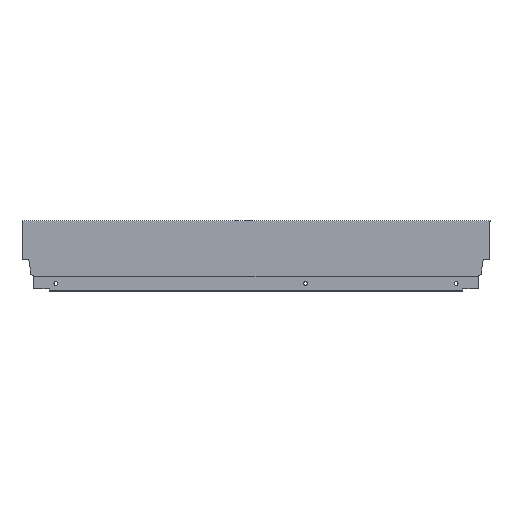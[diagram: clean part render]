
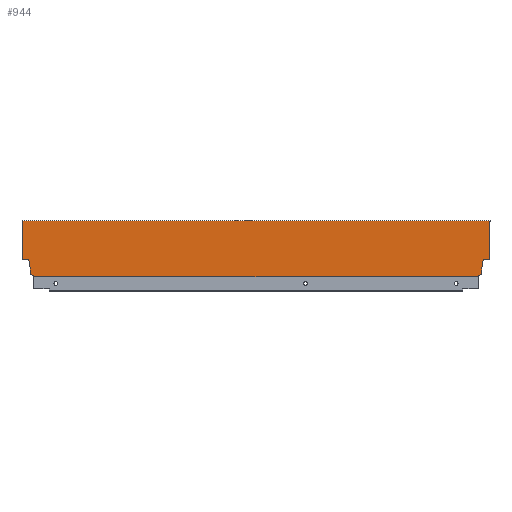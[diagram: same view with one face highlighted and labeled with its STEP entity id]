
A CAD part, top view. The second image highlights one B-rep face of the part: STEP entity #944.
In plain terms, the highlighted planar face has unit normal (0, 0, 1).
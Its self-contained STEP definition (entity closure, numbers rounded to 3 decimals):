
#120 = AXIS2_PLACEMENT_3D ( 'NONE', #803, #809, #810 ) ;
#205 = EDGE_CURVE ( 'NONE', #363, #383, #969, .T. ) ;
#214 = EDGE_CURVE ( 'NONE', #369, #391, #1648, .T. ) ;
#216 = EDGE_CURVE ( 'NONE', #397, #381, #1644, .T. ) ;
#218 = EDGE_CURVE ( 'NONE', #387, #355, #1640, .T. ) ;
#220 = EDGE_CURVE ( 'NONE', #349, #377, #1636, .T. ) ;
#222 = EDGE_CURVE ( 'NONE', #400, #404, #1645, .T. ) ;
#223 = EDGE_CURVE ( 'NONE', #404, #387, #1630, .T. ) ;
#224 = EDGE_CURVE ( 'NONE', #369, #399, #1628, .T. ) ;
#226 = EDGE_CURVE ( 'NONE', #389, #391, #1624, .T. ) ;
#227 = EDGE_CURVE ( 'NONE', #397, #349, #1622, .T. ) ;
#228 = EDGE_CURVE ( 'NONE', #384, #389, #1620, .T. ) ;
#229 = EDGE_CURVE ( 'NONE', #381, #355, #1618, .T. ) ;
#231 = EDGE_CURVE ( 'NONE', #399, #400, #1614, .T. ) ;
#233 = EDGE_CURVE ( 'NONE', #374, #384, #1610, .T. ) ;
#235 = EDGE_CURVE ( 'NONE', #394, #374, #1632, .T. ) ;
#237 = EDGE_CURVE ( 'NONE', #383, #394, #1602, .T. ) ;
#239 = EDGE_CURVE ( 'NONE', #332, #363, #1598, .T. ) ;
#241 = EDGE_CURVE ( 'NONE', #377, #332, #1594, .T. ) ;
#332 = VERTEX_POINT ( 'NONE', #631 ) ;
#349 = VERTEX_POINT ( 'NONE', #648 ) ;
#355 = VERTEX_POINT ( 'NONE', #654 ) ;
#363 = VERTEX_POINT ( 'NONE', #662 ) ;
#369 = VERTEX_POINT ( 'NONE', #668 ) ;
#374 = VERTEX_POINT ( 'NONE', #673 ) ;
#377 = VERTEX_POINT ( 'NONE', #676 ) ;
#381 = VERTEX_POINT ( 'NONE', #680 ) ;
#383 = VERTEX_POINT ( 'NONE', #682 ) ;
#384 = VERTEX_POINT ( 'NONE', #683 ) ;
#387 = VERTEX_POINT ( 'NONE', #686 ) ;
#389 = VERTEX_POINT ( 'NONE', #688 ) ;
#391 = VERTEX_POINT ( 'NONE', #690 ) ;
#394 = VERTEX_POINT ( 'NONE', #693 ) ;
#397 = VERTEX_POINT ( 'NONE', #696 ) ;
#399 = VERTEX_POINT ( 'NONE', #698 ) ;
#400 = VERTEX_POINT ( 'NONE', #699 ) ;
#404 = VERTEX_POINT ( 'NONE', #703 ) ;
#519 = CARTESIAN_POINT ( 'NONE',  ( 0., 0., 7.5 ) ) ;
#520 = DIRECTION ( 'NONE',  ( 0., -1., 0. ) ) ;
#538 = CARTESIAN_POINT ( 'NONE',  ( -565., 0., 7.5 ) ) ;
#539 = DIRECTION ( 'NONE',  ( 1., 0., 0. ) ) ;
#541 = CARTESIAN_POINT ( 'NONE',  ( -566., 66.5, 7.5 ) ) ;
#542 = DIRECTION ( 'NONE',  ( 1., 0., 0. ) ) ;
#545 = CARTESIAN_POINT ( 'NONE',  ( -570., 21.2, 7.5 ) ) ;
#546 = DIRECTION ( 'NONE',  ( -1., 0., 0. ) ) ;
#549 = CARTESIAN_POINT ( 'NONE',  ( -7.06, 21.2, 7.5 ) ) ;
#550 = CARTESIAN_POINT ( 'NONE',  ( -565., 68., 7.5 ) ) ;
#551 = DIRECTION ( 'NONE',  ( 1., 0., 0. ) ) ;
#555 = CARTESIAN_POINT ( 'NONE',  ( -556.1, 10.765, 7.5 ) ) ;
#556 = DIRECTION ( 'NONE',  ( 0., 1., 0. ) ) ;
#557 = CARTESIAN_POINT ( 'NONE',  ( -557.94, 21.2, 7.5 ) ) ;
#558 = DIRECTION ( 'NONE',  ( -0.174, 0.985, 0. ) ) ;
#559 = CARTESIAN_POINT ( 'NONE',  ( -551.996, 1.146, 7.5 ) ) ;
#560 = DIRECTION ( 'NONE',  ( 0., 1., 0. ) ) ;
#563 = CARTESIAN_POINT ( 'NONE',  ( -13.004, 1.146, 7.5 ) ) ;
#564 = DIRECTION ( 'NONE',  ( 0., -1., 0. ) ) ;
#565 = CARTESIAN_POINT ( 'NONE',  ( -566., 66.5, 7.5 ) ) ;
#566 = DIRECTION ( 'NONE',  ( 0., 1., 0. ) ) ;
#567 = CARTESIAN_POINT ( 'NONE',  ( -8.9, 2.64, 7.5 ) ) ;
#568 = DIRECTION ( 'NONE',  ( -0.94, -0.342, 0. ) ) ;
#569 = CARTESIAN_POINT ( 'NONE',  ( -565., 0., 7.5 ) ) ;
#570 = DIRECTION ( 'NONE',  ( 0., -1., 0. ) ) ;
#573 = CARTESIAN_POINT ( 'NONE',  ( -556.1, 2.64, 7.5 ) ) ;
#574 = DIRECTION ( 'NONE',  ( -0.94, 0.342, 0. ) ) ;
#577 = CARTESIAN_POINT ( 'NONE',  ( -8.9, 10.765, 7.5 ) ) ;
#578 = DIRECTION ( 'NONE',  ( 0., -1., 0. ) ) ;
#582 = DIRECTION ( 'NONE',  ( -0.174, -0.985, 0. ) ) ;
#585 = CARTESIAN_POINT ( 'NONE',  ( 0., 21.2, 7.5 ) ) ;
#586 = DIRECTION ( 'NONE',  ( -1., 0., 0. ) ) ;
#589 = CARTESIAN_POINT ( 'NONE',  ( 1., 66.5, 7.5 ) ) ;
#590 = DIRECTION ( 'NONE',  ( -1., 0., 0. ) ) ;
#593 = CARTESIAN_POINT ( 'NONE',  ( 1., 68., 7.5 ) ) ;
#594 = DIRECTION ( 'NONE',  ( 0., -1., 0. ) ) ;
#631 = CARTESIAN_POINT ( 'NONE',  ( 1., 66.5, 7.5 ) ) ;
#648 = CARTESIAN_POINT ( 'NONE',  ( -566., 68., 7.5 ) ) ;
#654 = CARTESIAN_POINT ( 'NONE',  ( -565., 21.2, 7.5 ) ) ;
#662 = CARTESIAN_POINT ( 'NONE',  ( 0., 66.5, 7.5 ) ) ;
#668 = CARTESIAN_POINT ( 'NONE',  ( -551.996, 0., 7.5 ) ) ;
#673 = CARTESIAN_POINT ( 'NONE',  ( -8.9, 10.765, 7.5 ) ) ;
#676 = CARTESIAN_POINT ( 'NONE',  ( 1., 68., 7.5 ) ) ;
#680 = CARTESIAN_POINT ( 'NONE',  ( -565., 66.5, 7.5 ) ) ;
#682 = CARTESIAN_POINT ( 'NONE',  ( 0., 21.2, 7.5 ) ) ;
#683 = CARTESIAN_POINT ( 'NONE',  ( -8.9, 2.64, 7.5 ) ) ;
#686 = CARTESIAN_POINT ( 'NONE',  ( -557.94, 21.2, 7.5 ) ) ;
#688 = CARTESIAN_POINT ( 'NONE',  ( -13.004, 1.146, 7.5 ) ) ;
#690 = CARTESIAN_POINT ( 'NONE',  ( -13.004, 0., 7.5 ) ) ;
#693 = CARTESIAN_POINT ( 'NONE',  ( -7.06, 21.2, 7.5 ) ) ;
#696 = CARTESIAN_POINT ( 'NONE',  ( -566., 66.5, 7.5 ) ) ;
#698 = CARTESIAN_POINT ( 'NONE',  ( -551.996, 1.146, 7.5 ) ) ;
#699 = CARTESIAN_POINT ( 'NONE',  ( -556.1, 2.64, 7.5 ) ) ;
#703 = CARTESIAN_POINT ( 'NONE',  ( -556.1, 10.765, 7.5 ) ) ;
#800 = PLANE ( 'NONE',  #120 ) ;
#803 = CARTESIAN_POINT ( 'NONE',  ( -565., 0., 7.5 ) ) ;
#809 = DIRECTION ( 'NONE',  ( 0., 0., 1. ) ) ;
#810 = DIRECTION ( 'NONE',  ( 1., 0., 0. ) ) ;
#944 = ADVANCED_FACE ( 'NONE', ( #1544 ), #800, .T. ) ;
#969 = LINE ( 'NONE', #519, #970 ) ;
#970 = VECTOR ( 'NONE', #520, 1000. ) ;
#975 = ORIENTED_EDGE ( 'NONE', *, *, #233, .F. ) ;
#980 = ORIENTED_EDGE ( 'NONE', *, *, #224, .F. ) ;
#1021 = ORIENTED_EDGE ( 'NONE', *, *, #214, .T. ) ;
#1036 = ORIENTED_EDGE ( 'NONE', *, *, #239, .F. ) ;
#1042 = ORIENTED_EDGE ( 'NONE', *, *, #237, .F. ) ;
#1063 = ORIENTED_EDGE ( 'NONE', *, *, #228, .F. ) ;
#1064 = ORIENTED_EDGE ( 'NONE', *, *, #205, .F. ) ;
#1074 = ORIENTED_EDGE ( 'NONE', *, *, #222, .F. ) ;
#1081 = ORIENTED_EDGE ( 'NONE', *, *, #231, .F. ) ;
#1084 = ORIENTED_EDGE ( 'NONE', *, *, #226, .F. ) ;
#1085 = ORIENTED_EDGE ( 'NONE', *, *, #223, .F. ) ;
#1127 = ORIENTED_EDGE ( 'NONE', *, *, #241, .F. ) ;
#1139 = ORIENTED_EDGE ( 'NONE', *, *, #227, .F. ) ;
#1144 = ORIENTED_EDGE ( 'NONE', *, *, #220, .F. ) ;
#1148 = ORIENTED_EDGE ( 'NONE', *, *, #229, .T. ) ;
#1149 = ORIENTED_EDGE ( 'NONE', *, *, #218, .F. ) ;
#1153 = ORIENTED_EDGE ( 'NONE', *, *, #216, .T. ) ;
#1232 = EDGE_LOOP ( 'NONE', ( #1144, #1139, #1153, #1148, #1149, #1085, #1074, #1081, #980, #1021, #1084, #1063, #975, #1298, #1042, #1064, #1036, #1127 ) ) ;
#1298 = ORIENTED_EDGE ( 'NONE', *, *, #235, .F. ) ;
#1544 = FACE_OUTER_BOUND ( 'NONE', #1232, .T. ) ;
#1593 = VECTOR ( 'NONE', #594, 1000. ) ;
#1594 = LINE ( 'NONE', #593, #1593 ) ;
#1597 = VECTOR ( 'NONE', #590, 1000. ) ;
#1598 = LINE ( 'NONE', #589, #1597 ) ;
#1601 = VECTOR ( 'NONE', #586, 1000. ) ;
#1602 = LINE ( 'NONE', #585, #1601 ) ;
#1606 = VECTOR ( 'NONE', #582, 1000. ) ;
#1609 = VECTOR ( 'NONE', #578, 1000. ) ;
#1610 = LINE ( 'NONE', #577, #1609 ) ;
#1613 = VECTOR ( 'NONE', #574, 1000. ) ;
#1614 = LINE ( 'NONE', #573, #1613 ) ;
#1617 = VECTOR ( 'NONE', #570, 1000. ) ;
#1618 = LINE ( 'NONE', #569, #1617 ) ;
#1619 = VECTOR ( 'NONE', #568, 1000. ) ;
#1620 = LINE ( 'NONE', #567, #1619 ) ;
#1621 = VECTOR ( 'NONE', #566, 1000. ) ;
#1622 = LINE ( 'NONE', #565, #1621 ) ;
#1623 = VECTOR ( 'NONE', #564, 1000. ) ;
#1624 = LINE ( 'NONE', #563, #1623 ) ;
#1627 = VECTOR ( 'NONE', #560, 1000. ) ;
#1628 = LINE ( 'NONE', #559, #1627 ) ;
#1629 = VECTOR ( 'NONE', #558, 1000. ) ;
#1630 = LINE ( 'NONE', #557, #1629 ) ;
#1632 = LINE ( 'NONE', #549, #1606 ) ;
#1635 = VECTOR ( 'NONE', #551, 1000. ) ;
#1636 = LINE ( 'NONE', #550, #1635 ) ;
#1639 = VECTOR ( 'NONE', #546, 1000. ) ;
#1640 = LINE ( 'NONE', #545, #1639 ) ;
#1643 = VECTOR ( 'NONE', #542, 1000. ) ;
#1644 = LINE ( 'NONE', #541, #1643 ) ;
#1645 = LINE ( 'NONE', #555, #1651 ) ;
#1647 = VECTOR ( 'NONE', #539, 1000. ) ;
#1648 = LINE ( 'NONE', #538, #1647 ) ;
#1651 = VECTOR ( 'NONE', #556, 1000. ) ;
